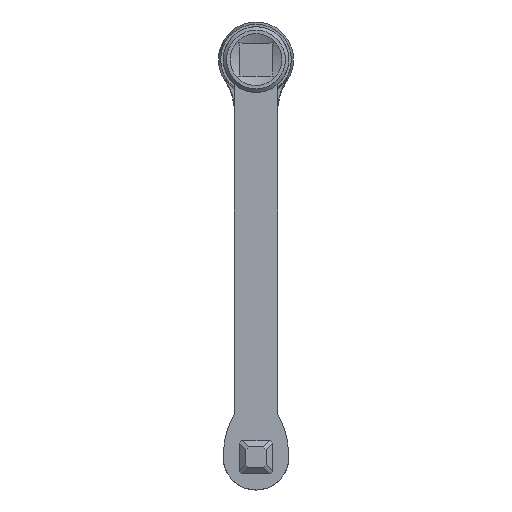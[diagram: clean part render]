
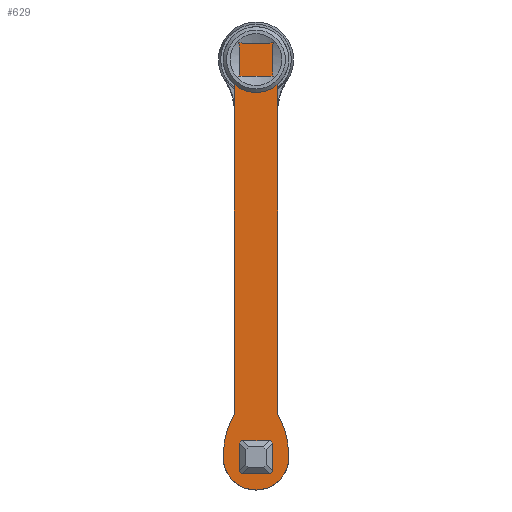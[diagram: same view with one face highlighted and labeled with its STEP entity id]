
A CAD part, front view. The second image highlights one B-rep face of the part: STEP entity #629.
In plain terms, the highlighted planar face has unit normal (0, -1, 0) as drawn and (0, 0, 1) by its records, which use the part's own axes.
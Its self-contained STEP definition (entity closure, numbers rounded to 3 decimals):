
#629=ADVANCED_FACE('',(#999,#1000),#870,.T.);
#870=PLANE('',#4087);
#999=FACE_BOUND('',#1079,.T.);
#1000=FACE_BOUND('',#1080,.T.);
#1079=EDGE_LOOP('',(#1554,#1555,#1556,#1557,#1558,#1559,#1560,#1561));
#1080=EDGE_LOOP('',(#1562,#1563,#1564,#1565,#1566,#1567,#1568,#1569));
#1356=CIRCLE('',#4073,19.);
#1357=CIRCLE('',#4076,4.);
#1358=CIRCLE('',#4078,50.);
#1359=CIRCLE('',#4080,19.);
#1360=CIRCLE('',#4082,50.);
#1361=CIRCLE('',#4084,4.);
#1554=ORIENTED_EDGE('',*,*,#3014,.F.);
#1555=ORIENTED_EDGE('',*,*,#3015,.F.);
#1556=ORIENTED_EDGE('',*,*,#3016,.F.);
#1557=ORIENTED_EDGE('',*,*,#3017,.F.);
#1558=ORIENTED_EDGE('',*,*,#3018,.F.);
#1559=ORIENTED_EDGE('',*,*,#3019,.F.);
#1560=ORIENTED_EDGE('',*,*,#3020,.F.);
#1561=ORIENTED_EDGE('',*,*,#3021,.F.);
#1562=ORIENTED_EDGE('',*,*,#3013,.T.);
#1563=ORIENTED_EDGE('',*,*,#2998,.T.);
#1564=ORIENTED_EDGE('',*,*,#3001,.T.);
#1565=ORIENTED_EDGE('',*,*,#3003,.T.);
#1566=ORIENTED_EDGE('',*,*,#3005,.T.);
#1567=ORIENTED_EDGE('',*,*,#3007,.T.);
#1568=ORIENTED_EDGE('',*,*,#3009,.T.);
#1569=ORIENTED_EDGE('',*,*,#3011,.T.);
#2644=VERTEX_POINT('',#5607);
#2645=VERTEX_POINT('',#5608);
#2646=VERTEX_POINT('',#5613);
#2647=VERTEX_POINT('',#5617);
#2648=VERTEX_POINT('',#5621);
#2649=VERTEX_POINT('',#5625);
#2650=VERTEX_POINT('',#5629);
#2651=VERTEX_POINT('',#5633);
#2652=VERTEX_POINT('',#5639);
#2653=VERTEX_POINT('',#5640);
#2654=VERTEX_POINT('',#5642);
#2655=VERTEX_POINT('',#5644);
#2656=VERTEX_POINT('',#5646);
#2657=VERTEX_POINT('',#5648);
#2658=VERTEX_POINT('',#5650);
#2659=VERTEX_POINT('',#5652);
#2998=EDGE_CURVE('',#2644,#2645,#1356,.T.);
#3001=EDGE_CURVE('',#2645,#2646,#3555,.T.);
#3003=EDGE_CURVE('',#2646,#2647,#1357,.T.);
#3005=EDGE_CURVE('',#2647,#2648,#1358,.T.);
#3007=EDGE_CURVE('',#2648,#2649,#1359,.T.);
#3009=EDGE_CURVE('',#2649,#2650,#1360,.T.);
#3011=EDGE_CURVE('',#2650,#2651,#1361,.T.);
#3013=EDGE_CURVE('',#2651,#2644,#3562,.T.);
#3014=EDGE_CURVE('',#2652,#2653,#3563,.T.);
#3015=EDGE_CURVE('',#2654,#2652,#3564,.T.);
#3016=EDGE_CURVE('',#2655,#2654,#3565,.T.);
#3017=EDGE_CURVE('',#2656,#2655,#3566,.T.);
#3018=EDGE_CURVE('',#2657,#2656,#3567,.T.);
#3019=EDGE_CURVE('',#2658,#2657,#3568,.T.);
#3020=EDGE_CURVE('',#2659,#2658,#3569,.T.);
#3021=EDGE_CURVE('',#2653,#2659,#3570,.T.);
#3555=LINE('',#5612,#3815);
#3562=LINE('',#5636,#3822);
#3563=LINE('',#5638,#3823);
#3564=LINE('',#5641,#3824);
#3565=LINE('',#5643,#3825);
#3566=LINE('',#5645,#3826);
#3567=LINE('',#5647,#3827);
#3568=LINE('',#5649,#3828);
#3569=LINE('',#5651,#3829);
#3570=LINE('',#5653,#3830);
#3815=VECTOR('',#4512,1.);
#3822=VECTOR('',#4541,1.);
#3823=VECTOR('',#4544,1.);
#3824=VECTOR('',#4545,1.);
#3825=VECTOR('',#4546,1.);
#3826=VECTOR('',#4547,1.);
#3827=VECTOR('',#4548,1.);
#3828=VECTOR('',#4549,1.);
#3829=VECTOR('',#4550,1.);
#3830=VECTOR('',#4551,1.);
#4073=AXIS2_PLACEMENT_3D('',#5606,#4506,#4507);
#4076=AXIS2_PLACEMENT_3D('',#5616,#4516,#4517);
#4078=AXIS2_PLACEMENT_3D('',#5620,#4521,#4522);
#4080=AXIS2_PLACEMENT_3D('',#5624,#4526,#4527);
#4082=AXIS2_PLACEMENT_3D('',#5628,#4531,#4532);
#4084=AXIS2_PLACEMENT_3D('',#5632,#4536,#4537);
#4087=AXIS2_PLACEMENT_3D('',#5654,#4552,#4553);
#4506=DIRECTION('',(0.,0.,1.));
#4507=DIRECTION('',(1.,0.,0.));
#4512=DIRECTION('',(1.,0.,0.));
#4516=DIRECTION('',(0.,0.,-1.));
#4517=DIRECTION('',(1.,0.,0.));
#4521=DIRECTION('',(0.,0.,1.));
#4522=DIRECTION('',(1.,0.,0.));
#4526=DIRECTION('',(0.,0.,1.));
#4527=DIRECTION('',(1.,0.,0.));
#4531=DIRECTION('',(0.,0.,1.));
#4532=DIRECTION('',(1.,0.,0.));
#4536=DIRECTION('',(0.,0.,-1.));
#4537=DIRECTION('',(1.,0.,0.));
#4541=DIRECTION('',(-1.,0.,0.));
#4544=DIRECTION('',(0.,-1.,0.));
#4545=DIRECTION('',(-0.707,-0.707,0.));
#4546=DIRECTION('',(-1.,0.,0.));
#4547=DIRECTION('',(-0.707,0.707,0.));
#4548=DIRECTION('',(0.,1.,0.));
#4549=DIRECTION('',(0.707,0.707,0.));
#4550=DIRECTION('',(1.,0.,0.));
#4551=DIRECTION('',(0.707,-0.707,0.));
#4552=DIRECTION('',(0.,0.,1.));
#4553=DIRECTION('',(1.,0.,0.));
#5606=CARTESIAN_POINT('',(0.,0.,0.));
#5607=CARTESIAN_POINT('',(-14.309,12.5,0.));
#5608=CARTESIAN_POINT('',(-14.309,-12.5,0.));
#5612=CARTESIAN_POINT('',(14.309,-12.5,0.));
#5613=CARTESIAN_POINT('',(203.967,-12.5,0.));
#5616=CARTESIAN_POINT('',(203.967,-16.5,0.));
#5617=CARTESIAN_POINT('',(205.87,-12.982,0.));
#5620=CARTESIAN_POINT('',(229.656,30.998,0.));
#5621=CARTESIAN_POINT('',(230.211,-18.999,0.));
#5624=CARTESIAN_POINT('',(230.,0.,0.));
#5625=CARTESIAN_POINT('',(230.211,18.999,0.));
#5628=CARTESIAN_POINT('',(229.656,-30.998,0.));
#5629=CARTESIAN_POINT('',(205.87,12.982,0.));
#5632=CARTESIAN_POINT('',(203.967,16.5,0.));
#5633=CARTESIAN_POINT('',(203.967,12.5,0.));
#5636=CARTESIAN_POINT('',(203.967,12.5,0.));
#5638=CARTESIAN_POINT('',(220.5,8.178,0.));
#5639=CARTESIAN_POINT('',(220.5,8.178,0.));
#5640=CARTESIAN_POINT('',(220.5,-8.178,0.));
#5641=CARTESIAN_POINT('',(221.822,9.5,0.));
#5642=CARTESIAN_POINT('',(221.822,9.5,0.));
#5643=CARTESIAN_POINT('',(238.178,9.5,0.));
#5644=CARTESIAN_POINT('',(238.178,9.5,0.));
#5645=CARTESIAN_POINT('',(239.5,8.178,0.));
#5646=CARTESIAN_POINT('',(239.5,8.178,0.));
#5647=CARTESIAN_POINT('',(239.5,-8.178,0.));
#5648=CARTESIAN_POINT('',(239.5,-8.178,0.));
#5649=CARTESIAN_POINT('',(238.178,-9.5,0.));
#5650=CARTESIAN_POINT('',(238.178,-9.5,0.));
#5651=CARTESIAN_POINT('',(221.822,-9.5,0.));
#5652=CARTESIAN_POINT('',(221.822,-9.5,0.));
#5653=CARTESIAN_POINT('',(220.5,-8.178,0.));
#5654=CARTESIAN_POINT('',(0.,0.,0.));
